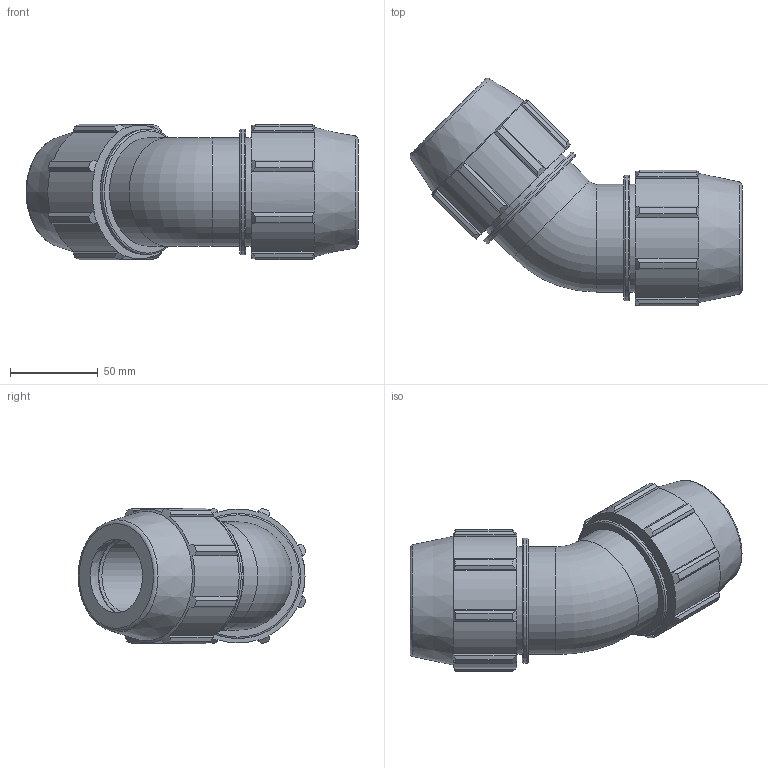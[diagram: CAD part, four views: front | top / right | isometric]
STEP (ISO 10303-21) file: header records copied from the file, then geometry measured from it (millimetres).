
FILE_DESCRIPTION(/* description */ ('PLASSON 45° ELBOW 1 1/4'''' - 1 1/4'''''),/* implementation_level */ '2;1');
FILE_NAME(/* name */ 'C:\Dropbox\KIMPROJECTS-Inventor 2019\99-16-3568-Processing Inch\ASTM Compression 2021\0706M0\0706M0013.ipt.stp',/* time_stamp */ '2021-08-26T12:32:11+03:00',/* author */ ('KIM'),/* organization */ (''),/* preprocessor_version */ 'ST-DEVELOPER v17.2',/* originating_system */ 'Autodesk Inventor 2019',/* authorisation */ '');
FILE_SCHEMA (('AUTOMOTIVE_DESIGN { 1 0 10303 214 3 1 1 }'));
Length unit declared in the file: inch
Products named in the file (1): 0706M0013
Bounding box: 189.11 x 129.66 x 77.2 mm (x, y, z)
Volume: 471662.2 mm3; surface area: 82031.6 mm2
Topology: 1 solids, 1 shells, 146 faces, 431 edges, 295 vertices
Faces by surface type: plane 74, cylinder 40, cone 24, torus 8
Full cylindrical faces by diameter (mm): 42.1 x2, 61.531 x4, 71.377 x2
Entity records: 5103 total; most frequent: CARTESIAN_POINT 1001, ORIENTED_EDGE 862, DIRECTION 820, EDGE_CURVE 431, AXIS2_PLACEMENT_3D 306, VERTEX_POINT 295, LINE 208, VECTOR 208
